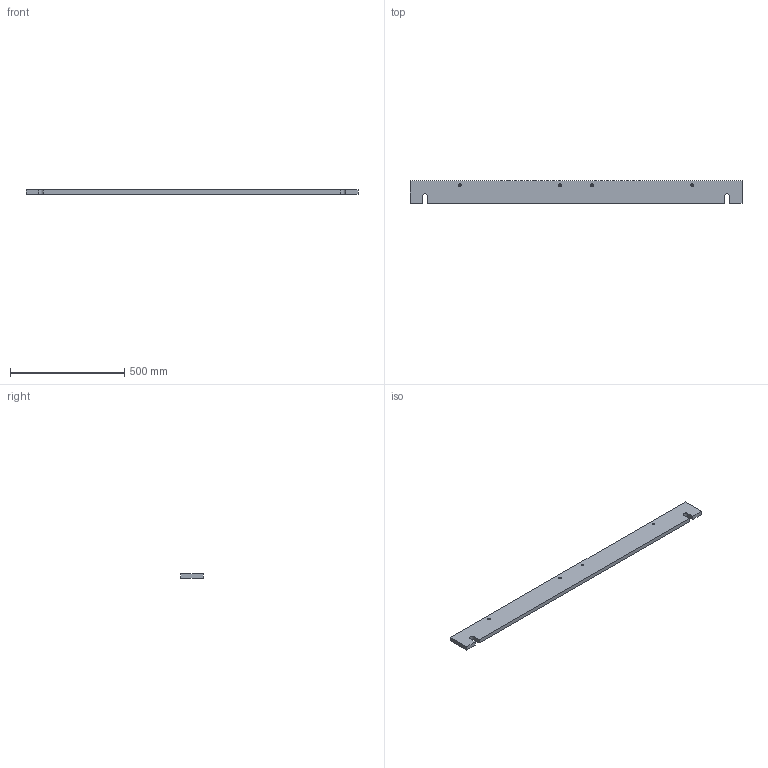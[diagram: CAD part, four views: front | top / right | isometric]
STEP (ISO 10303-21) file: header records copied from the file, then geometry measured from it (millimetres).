
FILE_DESCRIPTION (( 'STEP AP214' ), '1' );
FILE_NAME ('PANAC0040.STEP', '2025-01-27T11:01:42', ( '' ), ( '' ), 'SwSTEP 2.0', 'SolidWorks 2022', '' );
FILE_SCHEMA (( 'AUTOMOTIVE_DESIGN' ));
Length unit declared in the file: millimetre
Products named in the file (1): PANAC0040
Bounding box: 1456 x 100 x 18 mm (x, y, z)
Volume: 2585994 mm3; surface area: 347856.3 mm2
Topology: 1 solids, 1 shells, 38 faces, 92 edges, 52 vertices
Faces by surface type: cone 16, plane 12, cylinder 10
Entity records: 1074 total; most frequent: DIRECTION 190, CARTESIAN_POINT 175, ORIENTED_EDGE 168, EDGE_CURVE 84, AXIS2_PLACEMENT_3D 67, LINE 56, VECTOR 56, VERTEX_POINT 52
